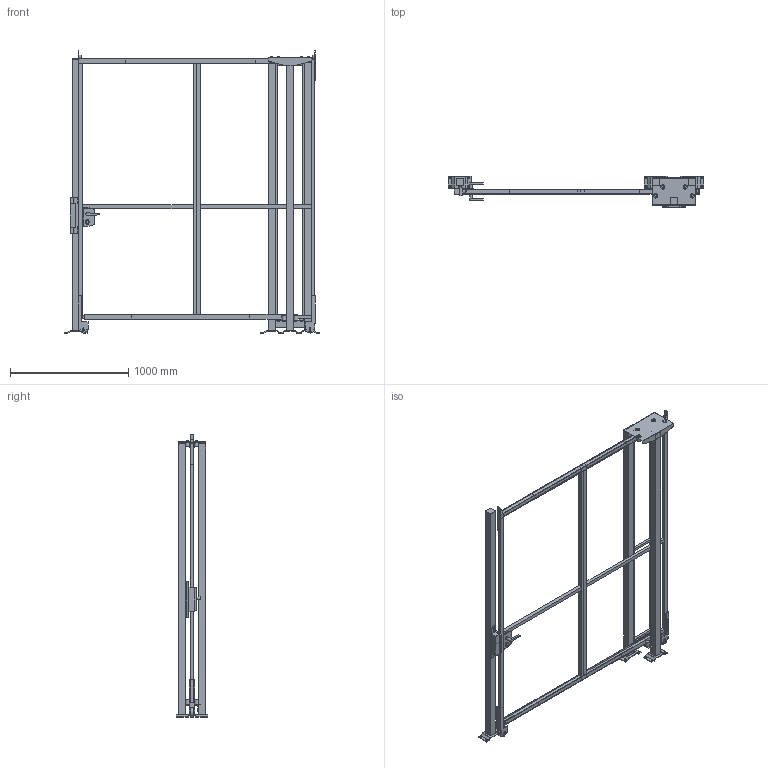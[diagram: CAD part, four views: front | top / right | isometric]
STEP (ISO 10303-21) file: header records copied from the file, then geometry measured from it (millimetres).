
FILE_DESCRIPTION(/* description */ (''),/* implementation_level */ '2;1');
FILE_NAME(/* name */ 'C:\SafeGuarding\ELABORATI\KLADKOUGAMMA_2025-03-21-09-18-25.stp',/* time_stamp */ '2025-03-21T09:18:28+01:00',/* author */ ('admin'),/* organization */ (''),/* preprocessor_version */ 'ST-DEVELOPER v18.1',/* originating_system */ 'AutoCAD Mechanical',/* authorisation */ '');
FILE_SCHEMA (('AUTOMOTIVE_DESIGN { 1 0 10303 214 3 1 1 }'));
Length unit declared in the file: millimetre
Products named in the file (4): Product; R_VFPA.REPE30.10002200; R_VFPA.REPE20.02502200; P_VFMA.V260SDU.2320
Assembly tree (7 placements, depth 2):
  Product
    R_VFPA.REPE30.10002200  x2
    P_VFMA.V260SDU.2320  x4
    R_VFPA.REPE20.02502200
Bounding box: 2161.92 x 264 x 2390.02 mm (x, y, z)
Volume: 52963157.4 mm3; surface area: 6864288.9 mm2
Topology: 67 solids, 67 shells, 602 faces, 1726 edges, 1684 vertices
Faces by surface type: plane 524, cylinder 74, bspline 4
Full cylindrical faces by diameter (mm): 9 x4, 11 x16, 13 x4, 18 x1, 25 x2, 25.398 x2, 30 x6, 36 x8, 80 x2
Entity records: 16557 total; most frequent: CARTESIAN_POINT 4281, DIRECTION 2452, ORIENTED_EDGE 2230, EDGE_CURVE 1115, LINE 1074, VECTOR 1074, VERTEX_POINT 750, AXIS2_PLACEMENT_3D 689
